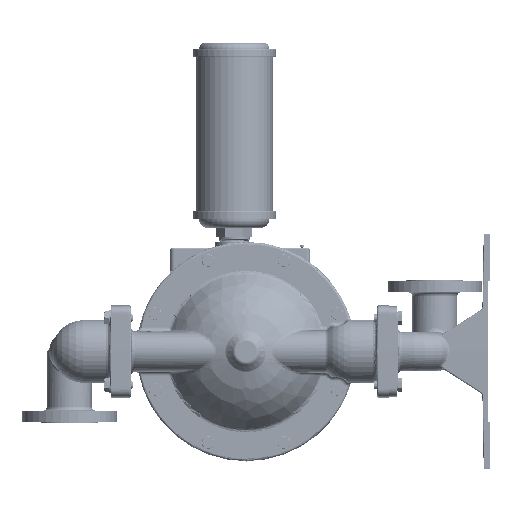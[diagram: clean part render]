
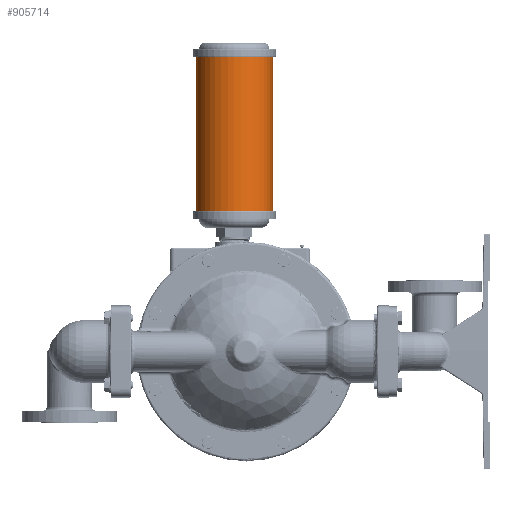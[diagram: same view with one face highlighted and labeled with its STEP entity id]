
A CAD part, left-side view. The second image highlights one B-rep face of the part: STEP entity #905714.
In plain terms, the highlighted cylindrical face has radius 61.722 mm (diameter 123.444 mm), a partial arc.
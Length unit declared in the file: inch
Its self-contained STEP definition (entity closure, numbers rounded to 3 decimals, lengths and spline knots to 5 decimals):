
#751892=DIRECTION('',(0.,0.,1.));
#751893=VECTOR('',#751892,9.78);
#751894=CARTESIAN_POINT('',(0.,3.18,8.905));
#751895=LINE('',#751894,#751893);
#751896=DIRECTION('',(0.,0.,1.));
#751897=VECTOR('',#751896,9.78);
#751898=CARTESIAN_POINT('',(0.,-1.68,8.905));
#751899=LINE('',#751898,#751897);
#751900=CARTESIAN_POINT('',(0.,0.75,8.905));
#751901=DIRECTION('',(0.,0.,1.));
#751902=DIRECTION('',(0.,1.,0.));
#751903=AXIS2_PLACEMENT_3D('',#751900,#751901,#751902);
#751925=CARTESIAN_POINT('',(0.,0.75,18.685));
#751926=DIRECTION('',(0.,0.,1.));
#751927=DIRECTION('',(0.,1.,0.));
#751928=AXIS2_PLACEMENT_3D('',#751925,#751926,#751927);
#840427=CARTESIAN_POINT('',(0.,3.18,8.905));
#840428=CARTESIAN_POINT('',(0.,3.18,18.685));
#840429=VERTEX_POINT('',#840427);
#840430=VERTEX_POINT('',#840428);
#840431=CARTESIAN_POINT('',(0.,-1.68,8.905));
#840432=CARTESIAN_POINT('',(0.,-1.68,18.685));
#840433=VERTEX_POINT('',#840431);
#840434=VERTEX_POINT('',#840432);
#905700=CARTESIAN_POINT('',(0.,0.75,20.1725));
#905701=DIRECTION('',(0.,0.,-1.));
#905702=DIRECTION('',(0.,-1.,0.));
#905703=AXIS2_PLACEMENT_3D('',#905700,#905701,#905702);
#905704=CYLINDRICAL_SURFACE('',#905703,2.43);
#905706=ORIENTED_EDGE('',*,*,#905705,.T.);
#905708=ORIENTED_EDGE('',*,*,#905707,.T.);
#905710=ORIENTED_EDGE('',*,*,#905709,.F.);
#905711=ORIENTED_EDGE('',*,*,#905681,.F.);
#905712=EDGE_LOOP('',(#905706,#905708,#905710,#905711));
#905713=FACE_OUTER_BOUND('',#905712,.F.);
#751904=CIRCLE('',#751903,2.43);
#751929=CIRCLE('',#751928,2.43);
#905681=EDGE_CURVE('',#840429,#840433,#751904,.T.);
#905705=EDGE_CURVE('',#840429,#840430,#751895,.T.);
#905707=EDGE_CURVE('',#840430,#840434,#751929,.T.);
#905709=EDGE_CURVE('',#840433,#840434,#751899,.T.);
#905714=ADVANCED_FACE('',(#905713),#905704,.T.);
